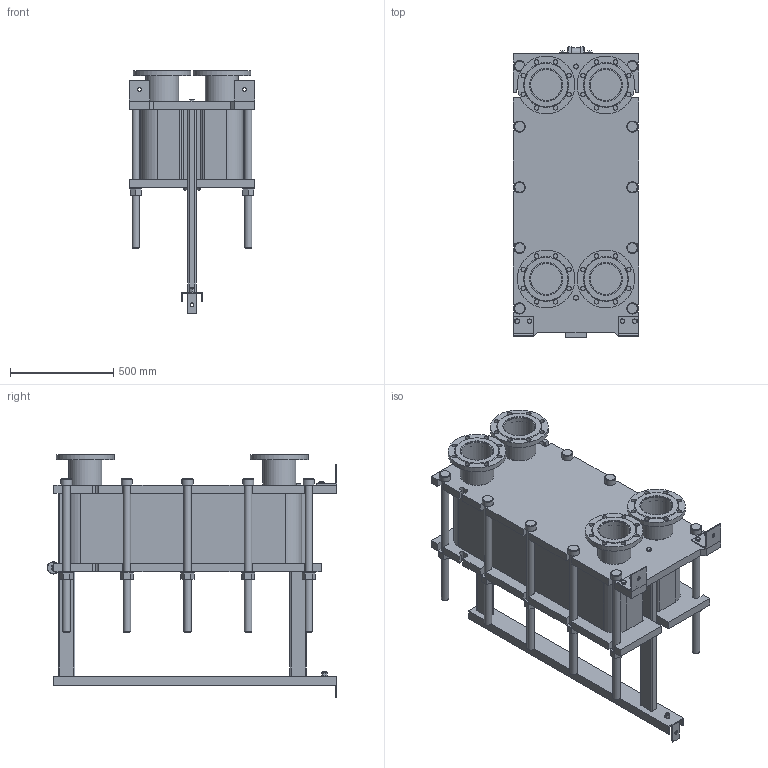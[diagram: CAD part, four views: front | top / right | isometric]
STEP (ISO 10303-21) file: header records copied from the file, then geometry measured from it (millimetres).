
FILE_DESCRIPTION(/* description */ (''),/* implementation_level */ '2;1');
FILE_NAME(/* name */ 'C:\Users\zhuro\Desktop\ENCO\TO\ЭН-041\ЭН-0,5-041-99-1.stp',/* time_stamp */ '2022-06-06T10:57:59+03:00',/* author */ ('zhuro'),/* organization */ (''),/* preprocessor_version */ 'ST-DEVELOPER v18.1',/* originating_system */ 'Autodesk Inventor 2022',/* authorisation */ '');
FILE_SCHEMA (('AUTOMOTIVE_DESIGN { 1 0 10303 214 3 1 1 }'));
Length unit declared in the file: millimetre
Products named in the file (1): ЭН-0,5-041-99-1
Bounding box: 610 x 1406.5 x 1182.5 mm (x, y, z)
Volume: 272503331.9 mm3; surface area: 9002461.9 mm2
Topology: 52 solids, 52 shells, 711 faces, 1696 edges, 1094 vertices
Faces by surface type: plane 487, cylinder 177, cone 41, torus 6
Full cylindrical faces by diameter (mm): 8 x4, 10 x2, 16 x8, 18 x3, 22 x32, 36 x24, 50 x1, 54 x10, 60 x12, 151 x4, 161 x8, 280 x4
Entity records: 22667 total; most frequent: CARTESIAN_POINT 5230, DIRECTION 3644, ORIENTED_EDGE 3392, EDGE_CURVE 1696, AXIS2_PLACEMENT_3D 1272, LINE 1100, VECTOR 1100, VERTEX_POINT 1094
